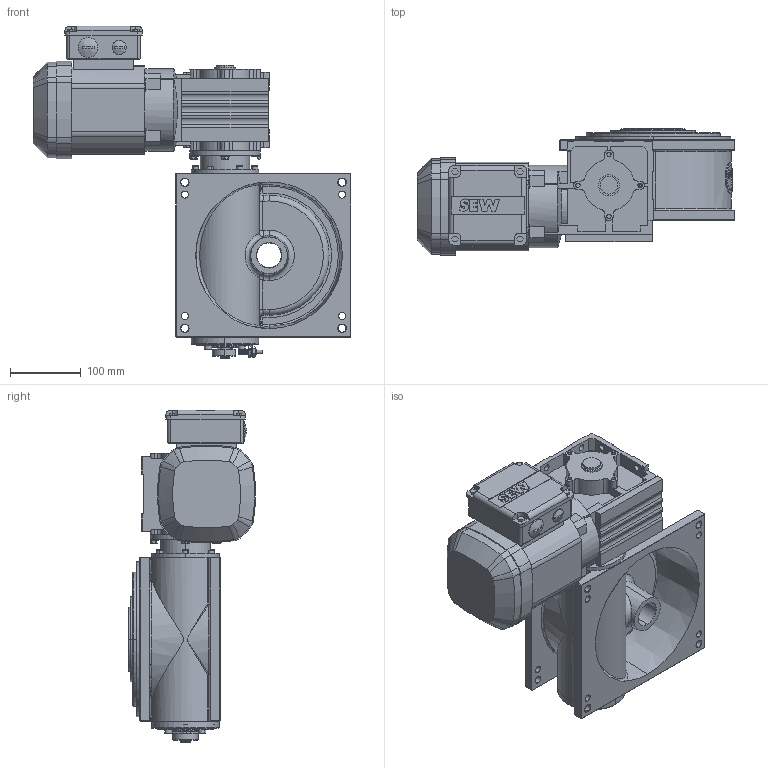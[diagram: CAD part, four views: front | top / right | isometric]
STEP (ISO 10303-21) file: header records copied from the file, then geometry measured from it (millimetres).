
FILE_DESCRIPTION (( 'STEP AP214' ), '1' );
FILE_NAME ('M190_SEW_WA30DRS71S4_D3.STEP', '2021-01-25T15:14:15', ( '' ), ( '' ), 'SwSTEP 2.0', 'SolidWorks 2020', '' );
FILE_SCHEMA (( 'AUTOMOTIVE_DESIGN' ));
Length unit declared in the file: millimetre
Products named in the file (1): M190_SEW_WA30DRS71S4_D3
Bounding box: 450.5 x 179.74 x 470.55 mm (x, y, z)
Surface area: 625649.2 mm2 (no closed solid volume)
Topology: 0 solids, 54 shells, 1239 faces, 3736 edges, 2468 vertices
Faces by surface type: plane 506, cylinder 418, cone 147, bspline 95, torus 61, sphere 12
Entity records: 64862 total; most frequent: CARTESIAN_POINT 18411, DIRECTION 6823, ORIENTED_EDGE 6478, EDGE_CURVE 3710, VERTEX_POINT 2468, AXIS2_PLACEMENT_3D 2439, LINE 1945, VECTOR 1945
